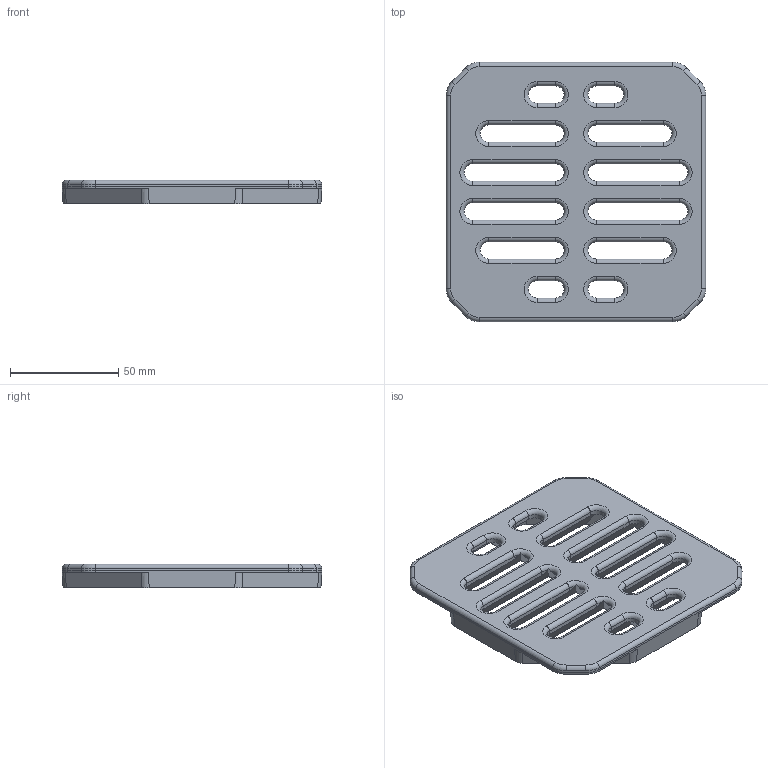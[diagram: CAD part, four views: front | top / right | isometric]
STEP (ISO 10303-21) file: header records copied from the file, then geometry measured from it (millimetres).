
FILE_DESCRIPTION(/* description */ (''),/* implementation_level */ '2;1');
FILE_NAME(/* name */ 'C:\Planerdaten\Export PLA\388.104.00.1\stp\388104.stp',/* time_stamp */ '2022-08-31T07:58:19+02:00',/* author */ ('JANAN'),/* organization */ (''),/* preprocessor_version */ 'ST-DEVELOPER v18.1',/* originating_system */ 'Autodesk Inventor 2021',/* authorisation */ '');
FILE_SCHEMA (('AUTOMOTIVE_DESIGN { 1 0 10303 214 3 1 1 }'));
Length unit declared in the file: millimetre
Products named in the file (1): tmp9E81.tmp
Bounding box: 120 x 120 x 11 mm (x, y, z)
Volume: 78486.7 mm3; surface area: 34604.5 mm2
Topology: 1 solids, 1 shells, 252 faces, 662 edges, 399 vertices
Faces by surface type: plane 102, cylinder 100, torus 32, cone 16, bspline 2
Entity records: 8357 total; most frequent: CARTESIAN_POINT 1724, DIRECTION 1390, ORIENTED_EDGE 1320, EDGE_CURVE 660, AXIS2_PLACEMENT_3D 517, VERTEX_POINT 399, LINE 356, VECTOR 356
